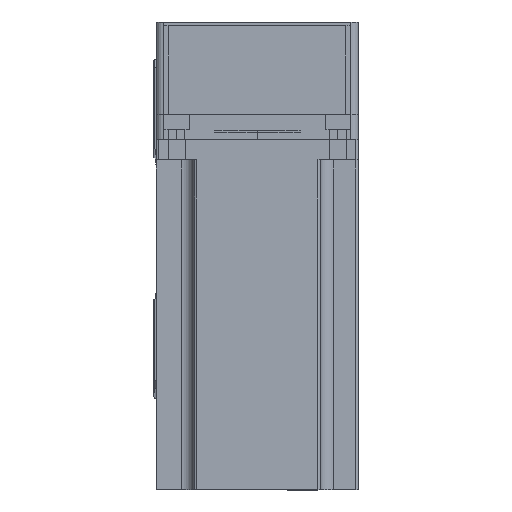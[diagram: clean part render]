
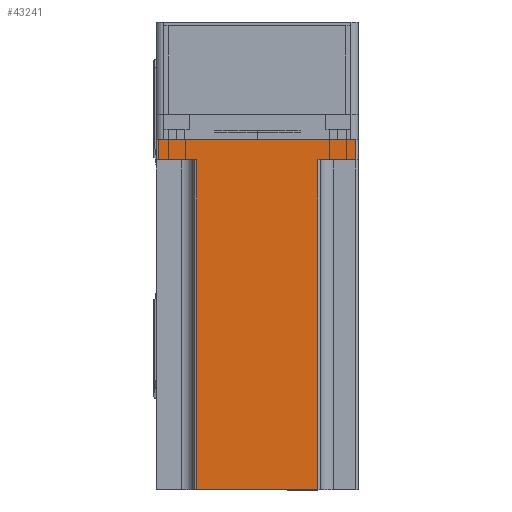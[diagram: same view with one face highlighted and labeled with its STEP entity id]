
A CAD part, top view. The second image highlights one B-rep face of the part: STEP entity #43241.
In plain terms, the highlighted planar face has unit normal (0, 0, 1) as drawn and (0, 1, 0) by its records, which use the part's own axes.
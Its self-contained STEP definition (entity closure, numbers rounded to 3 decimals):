
#282 = CARTESIAN_POINT ( 'NONE',  ( 40., 40., 138.3 ) ) ;
#1326 = CARTESIAN_POINT ( 'NONE',  ( -39., 40., 8. ) ) ;
#2847 = EDGE_CURVE ( 'NONE', #27860, #32753, #62186, .T. ) ;
#5183 = DIRECTION ( 'NONE',  ( 1., 0., 0. ) ) ;
#5383 = DIRECTION ( 'NONE',  ( -1., 0., 0. ) ) ;
#5988 = VECTOR ( 'NONE', #5383, 1000. ) ;
#7225 = VERTEX_POINT ( 'NONE', #52357 ) ;
#11351 = CARTESIAN_POINT ( 'NONE',  ( 39., 40., 0. ) ) ;
#12980 = ORIENTED_EDGE ( 'NONE', *, *, #2847, .T. ) ;
#15867 = VECTOR ( 'NONE', #58792, 1000. ) ;
#15875 = CARTESIAN_POINT ( 'NONE',  ( 24., 40., 8. ) ) ;
#17010 = EDGE_CURVE ( 'NONE', #27860, #26777, #59128, .T. ) ;
#17358 = LINE ( 'NONE', #29672, #5988 ) ;
#17804 = CARTESIAN_POINT ( 'NONE',  ( 40., 40., 0. ) ) ;
#17942 = EDGE_LOOP ( 'NONE', ( #40048, #42208, #33178, #21226, #44695, #12980, #54917, #23509 ) ) ;
#18099 = CARTESIAN_POINT ( 'NONE',  ( -25., 40., 8. ) ) ;
#19042 = CARTESIAN_POINT ( 'NONE',  ( 24., 40., 138.3 ) ) ;
#19942 = VECTOR ( 'NONE', #52082, 1000. ) ;
#20914 = LINE ( 'NONE', #21688, #45472 ) ;
#21226 = ORIENTED_EDGE ( 'NONE', *, *, #49407, .T. ) ;
#21688 = CARTESIAN_POINT ( 'NONE',  ( -24., 40., 138.3 ) ) ;
#22272 = VERTEX_POINT ( 'NONE', #49711 ) ;
#23028 = DIRECTION ( 'NONE',  ( 1., 0., 0. ) ) ;
#23509 = ORIENTED_EDGE ( 'NONE', *, *, #28715, .T. ) ;
#23518 = FACE_OUTER_BOUND ( 'NONE', #17942, .T. ) ;
#26460 = VERTEX_POINT ( 'NONE', #52689 ) ;
#26591 = DIRECTION ( 'NONE',  ( 0., 0., 1. ) ) ;
#26777 = VERTEX_POINT ( 'NONE', #15875 ) ;
#27642 = DIRECTION ( 'NONE',  ( -1., 0., 0. ) ) ;
#27860 = VERTEX_POINT ( 'NONE', #47098 ) ;
#28715 = EDGE_CURVE ( 'NONE', #7225, #41215, #28892, .T. ) ;
#28892 = LINE ( 'NONE', #39015, #15867 ) ;
#29672 = CARTESIAN_POINT ( 'NONE',  ( 40., 40., 138.3 ) ) ;
#30283 = VECTOR ( 'NONE', #27642, 1000. ) ;
#32753 = VERTEX_POINT ( 'NONE', #11351 ) ;
#33178 = ORIENTED_EDGE ( 'NONE', *, *, #43268, .F. ) ;
#33271 = VERTEX_POINT ( 'NONE', #59709 ) ;
#33720 = DIRECTION ( 'NONE',  ( 0., 0., -1. ) ) ;
#34440 = DIRECTION ( 'NONE',  ( 0., -1., 0. ) ) ;
#34559 = VECTOR ( 'NONE', #33720, 1000. ) ;
#36070 = VECTOR ( 'NONE', #23028, 1000. ) ;
#38865 = CARTESIAN_POINT ( 'NONE',  ( 39., 40., 138.3 ) ) ;
#39015 = CARTESIAN_POINT ( 'NONE',  ( -39., 40., 138.3 ) ) ;
#40048 = ORIENTED_EDGE ( 'NONE', *, *, #51533, .T. ) ;
#40089 = EDGE_CURVE ( 'NONE', #26460, #22272, #20914, .T. ) ;
#41215 = VERTEX_POINT ( 'NONE', #1326 ) ;
#42208 = ORIENTED_EDGE ( 'NONE', *, *, #40089, .T. ) ;
#43241 = ADVANCED_FACE ( 'NONE', ( #23518 ), #44056, .F. ) ;
#43268 = EDGE_CURVE ( 'NONE', #33271, #22272, #17358, .T. ) ;
#44056 = PLANE ( 'NONE',  #54973 ) ;
#44695 = ORIENTED_EDGE ( 'NONE', *, *, #17010, .F. ) ;
#45472 = VECTOR ( 'NONE', #26591, 1000. ) ;
#47098 = CARTESIAN_POINT ( 'NONE',  ( 39., 40., 8. ) ) ;
#47144 = CARTESIAN_POINT ( 'NONE',  ( 25., 40., 8. ) ) ;
#49300 = EDGE_CURVE ( 'NONE', #32753, #7225, #56487, .T. ) ;
#49407 = EDGE_CURVE ( 'NONE', #33271, #26777, #55700, .T. ) ;
#49711 = CARTESIAN_POINT ( 'NONE',  ( -24., 40., 138.3 ) ) ;
#51533 = EDGE_CURVE ( 'NONE', #41215, #26460, #62181, .T. ) ;
#52082 = DIRECTION ( 'NONE',  ( -1., 0., 0. ) ) ;
#52357 = CARTESIAN_POINT ( 'NONE',  ( -39., 40., 0. ) ) ;
#52689 = CARTESIAN_POINT ( 'NONE',  ( -24., 40., 8. ) ) ;
#54189 = VECTOR ( 'NONE', #63044, 1000. ) ;
#54917 = ORIENTED_EDGE ( 'NONE', *, *, #49300, .T. ) ;
#54973 = AXIS2_PLACEMENT_3D ( 'NONE', #282, #34440, #5183 ) ;
#55700 = LINE ( 'NONE', #19042, #54189 ) ;
#56487 = LINE ( 'NONE', #17804, #30283 ) ;
#58792 = DIRECTION ( 'NONE',  ( 0., 0., 1. ) ) ;
#59128 = LINE ( 'NONE', #47144, #19942 ) ;
#59709 = CARTESIAN_POINT ( 'NONE',  ( 24., 40., 138.3 ) ) ;
#62181 = LINE ( 'NONE', #18099, #36070 ) ;
#62186 = LINE ( 'NONE', #38865, #34559 ) ;
#63044 = DIRECTION ( 'NONE',  ( 0., 0., -1. ) ) ;
